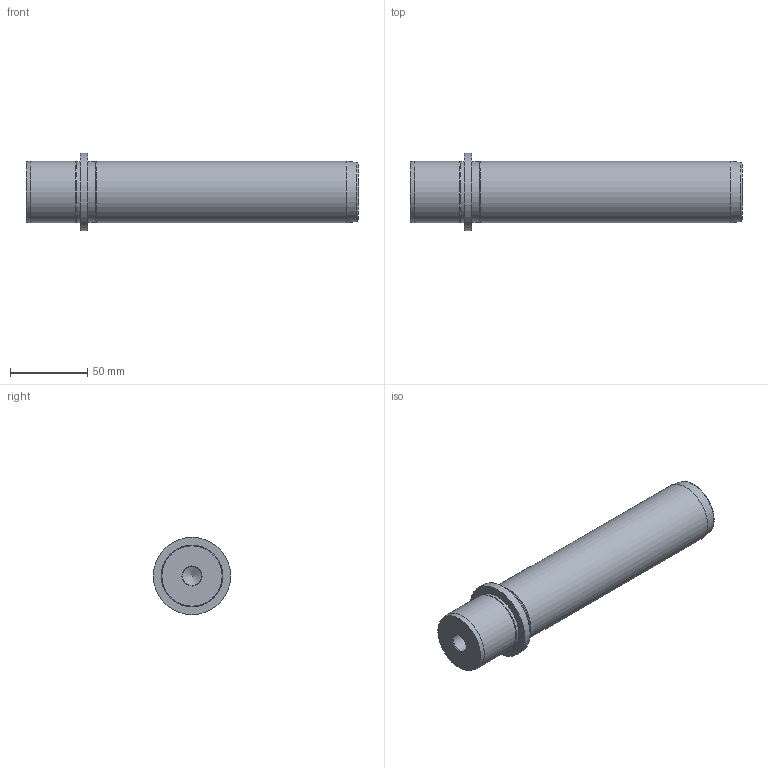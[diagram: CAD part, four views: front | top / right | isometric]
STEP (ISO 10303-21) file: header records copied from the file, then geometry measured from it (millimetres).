
FILE_DESCRIPTION(/* description */ ('Impex Ready, www.impex-ready.pl'),/* implementation_level */ '2;1');
FILE_NAME(/* name */ 'C:\Users\VIKKY\Nextcloud\SM\projekt 10 - części na stronę internetową\Pliki_3D_new\292 Słupy CE\292_CE_STEP\CE40180.ipt.step',/* time_stamp */ '2021-12-17T13:42:12+01:00',/* author */ ('SM'),/* organization */ (''),/* preprocessor_version */ 'ST-DEVELOPER v18.1',/* originating_system */ 'Autodesk Inventor 2021',/* authorisation */ '');
FILE_SCHEMA (('AUTOMOTIVE_DESIGN { 1 0 10303 214 3 1 1 }'));
Length unit declared in the file: millimetre
Products named in the file (1): CE40180
Bounding box: 215 x 50 x 50 mm (x, y, z)
Volume: 269565 mm3; surface area: 31982.9 mm2
Topology: 1 solids, 1 shells, 17 faces, 31 edges, 18 vertices
Faces by surface type: cone 6, cylinder 6, plane 4, torus 1
Full cylindrical faces by diameter (mm): 12 x1, 39 x2, 40 x2, 50 x1
Entity records: 508 total; most frequent: DIRECTION 84, CARTESIAN_POINT 66, ORIENTED_EDGE 60, AXIS2_PLACEMENT_3D 36, EDGE_CURVE 30, EDGE_LOOP 20, CIRCLE 18, VERTEX_POINT 18
